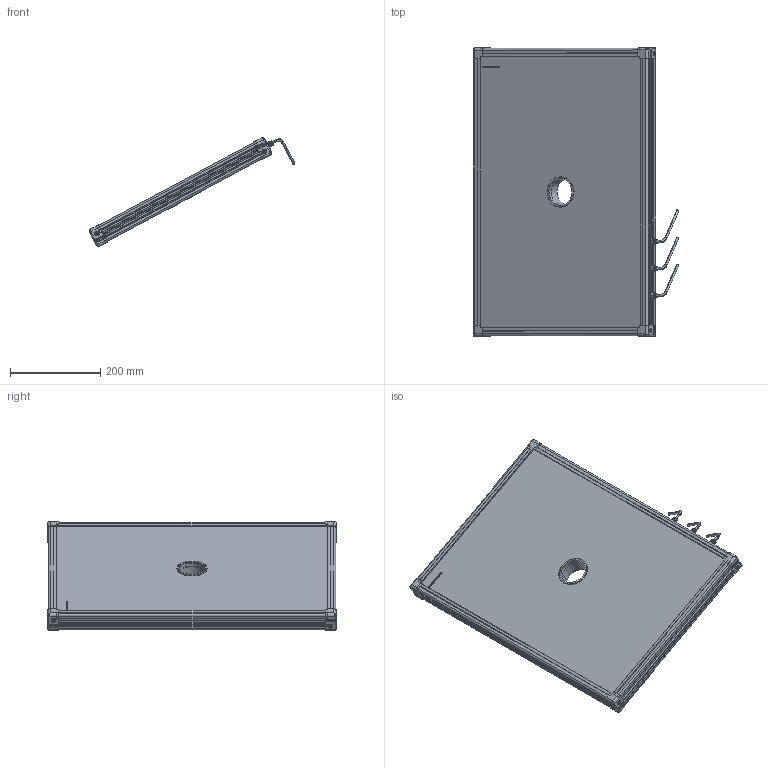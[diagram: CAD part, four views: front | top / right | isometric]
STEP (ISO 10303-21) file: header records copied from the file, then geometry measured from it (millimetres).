
FILE_DESCRIPTION (( 'STEP AP214' ), '1' );
FILE_NAME ('EFFI-BL-400-600-XXX-3M12.STEP', '2021-06-23T07:19:33', ( '' ), ( '' ), 'SwSTEP 2.0', 'SolidWorks 2021', '' );
FILE_SCHEMA (( 'AUTOMOTIVE_DESIGN' ));
Length unit declared in the file: millimetre
Products named in the file (13): profile Y_PERCE; 000629; petite joue; 001038; petite joue + vis; 000590; profile X_PERCE; Assemblage Ø58.5; 001037; EFFI-BL-400-600-XXX-3M12; Pièce13^EFFI-BL-XXX-YYY-ZZZ (3 connecteurs) Ø58.5; cordon_Avec cable
Assembly tree (21 placements, depth 3):
  EFFI-BL-400-600-XXX-3M12
    profile X_PERCE  x2
    profile Y_PERCE
    profile Y_PERCE
    Pièce13^EFFI-BL-XXX-YYY-ZZZ (3 connecteurs) Ø58.5
    petite joue + vis  x4
      petite joue
      000629
    Assemblage Ø58.5
      001037
      001038
      000590  x3
    cordon_Avec cable  x3
Bounding box: 454.52 x 639 x 241.05 mm (x, y, z)
Volume: 9634001.3 mm3; surface area: 914488.4 mm2
Topology: 22 solids, 40 shells, 4123 faces, 10940 edges, 7177 vertices
Faces by surface type: plane 2536, cylinder 759, bspline 609, cone 156, torus 55, sphere 8
Entity records: 57210 total; most frequent: CARTESIAN_POINT 22824, ORIENTED_EDGE 7166, DIRECTION 5912, EDGE_CURVE 3587, VECTOR 2498, LINE 2498, VERTEX_POINT 2358, AXIS2_PLACEMENT_3D 1707
